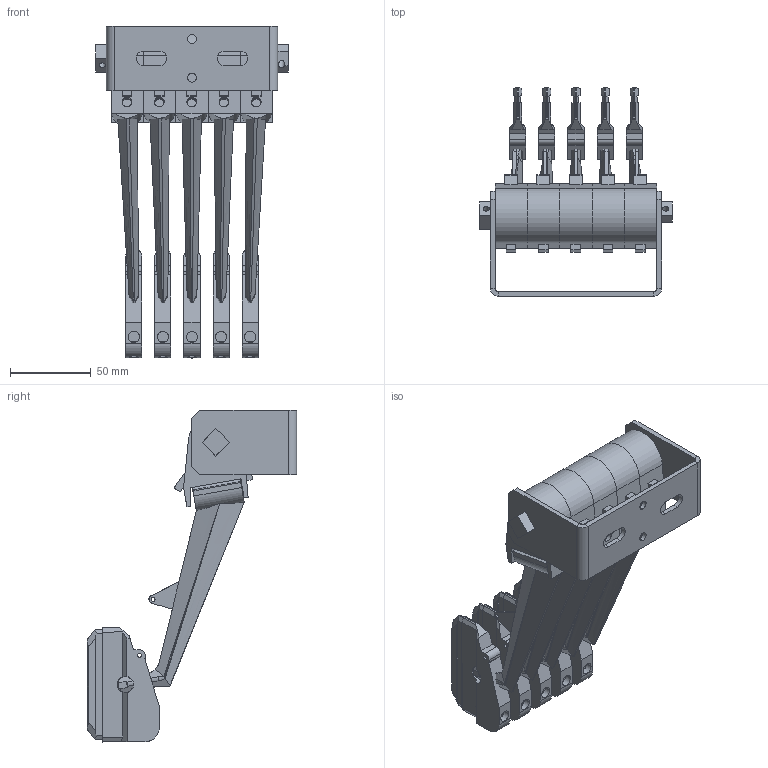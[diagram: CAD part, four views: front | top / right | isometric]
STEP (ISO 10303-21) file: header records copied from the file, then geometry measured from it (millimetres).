
FILE_DESCRIPTION (( 'STEP AP214' ), '1' );
FILE_NAME ('083103-050023.STEP', '2013-01-17T08:36:11', ( '' ), ( '' ), 'SwSTEP 2.0', 'SolidWorks 2012', '' );
FILE_SCHEMA (( 'AUTOMOTIVE_DESIGN' ));
Length unit declared in the file: millimetre
Products named in the file (15): 083102_PH -4; 083102_PH -2; 083102; 083102_PH +2; 08-k154-0178_PH 08-k154-0178; 08-L005-0113_PH 08-l005-0113; 083102_+4; 08-k154-0089; 08-k154-0178_PE 08-k154-0179; 08-A150-0034; 08-L005-0113_PE 08-l005-0061; 081050_20x5; Achse 081050_5 polig , 08-A002-0166; Buegel 081050_5 polig , 08-B004-0066; 083103-050023
Assembly tree (28 placements, depth 3):
  083103-050023
    081050_20x5
      Buegel 081050_5 polig , 08-B004-0066
      Achse 081050_5 polig , 08-A002-0166
    083102_+4
      08-L005-0113_PE 08-l005-0061
      08-A150-0034
      08-k154-0178_PE 08-k154-0179
      08-k154-0089
    083102_PH +2
      08-L005-0113_PH 08-l005-0113
      08-A150-0034
      08-k154-0178_PH 08-k154-0178
      08-k154-0089
    083102
      08-L005-0113_PH 08-l005-0113
      08-A150-0034
      08-k154-0178_PH 08-k154-0178
      08-k154-0089
    083102_PH -2
      08-L005-0113_PH 08-l005-0113
      08-A150-0034
      08-k154-0178_PH 08-k154-0178
      08-k154-0089
    083102_PH -4
      08-L005-0113_PH 08-l005-0113
      08-A150-0034
      08-k154-0178_PH 08-k154-0178
      08-k154-0089
Bounding box: 119 x 129.5 x 205.51 mm (x, y, z)
Volume: 359364.5 mm3; surface area: 144367.5 mm2
Topology: 22 solids, 27 shells, 848 faces, 2264 edges, 1489 vertices
Faces by surface type: plane 562, cylinder 211, bspline 50, torus 15, sphere 10
Entity records: 10530 total; most frequent: CARTESIAN_POINT 2604, ORIENTED_EDGE 1558, DIRECTION 1488, EDGE_CURVE 779, LINE 564, VECTOR 564, VERTEX_POINT 511, AXIS2_PLACEMENT_3D 462
